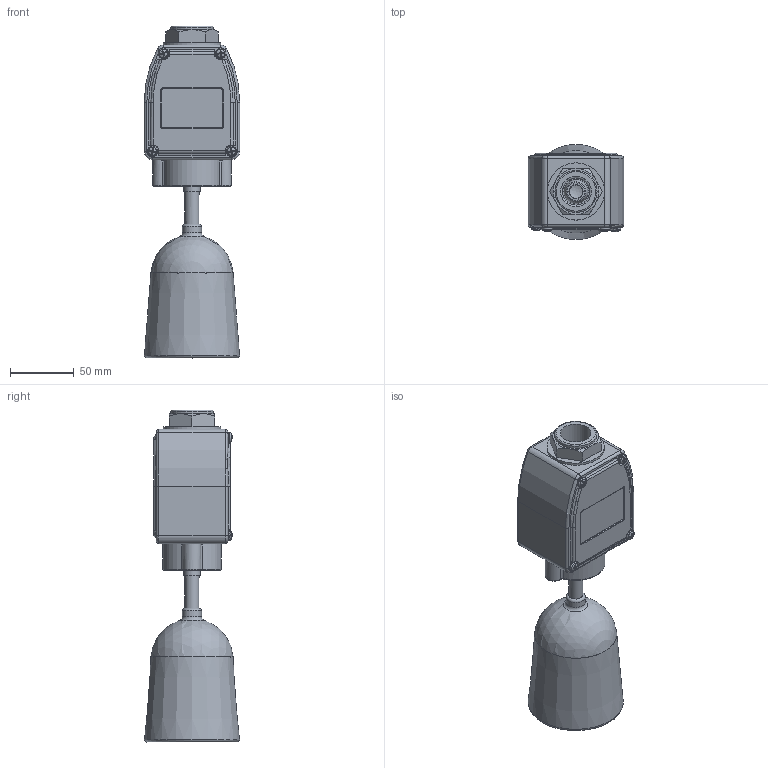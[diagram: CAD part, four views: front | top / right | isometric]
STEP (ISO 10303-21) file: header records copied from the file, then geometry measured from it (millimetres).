
FILE_DESCRIPTION(/* description */ (''),/* implementation_level */ '2;1');
FILE_NAME(/* name */ 'T:\TECNICO\Inventor\1_Gruppi\ILP3-Copia\1_Assiemi\ILP 3.stp',/* time_stamp */ '2022-03-16T12:10:52+01:00',/* author */ ('giovanni.perrone'),/* organization */ (''),/* preprocessor_version */ 'ST-DEVELOPER v18.1',/* originating_system */ 'Autodesk Inventor 2022',/* authorisation */ '');
FILE_SCHEMA (('AUTOMOTIVE_DESIGN { 1 0 10303 214 3 1 1 }'));
Length unit declared in the file: millimetre
Products named in the file (1): ILP 3_per step
Bounding box: 75 x 74.66 x 260.69 mm (x, y, z)
Volume: 252738.8 mm3; surface area: 128691.1 mm2
Topology: 1 solids, 16 shells, 1593 faces, 4103 edges, 2574 vertices
Faces by surface type: cylinder 641, plane 528, torus 235, cone 145, sphere 28, bspline 16
Full cylindrical faces by diameter (mm): 3.621 x9, 3.7 x7, 4 x8, 4.3 x8, 4.5 x6, 5 x2, 8.4 x1, 9 x3, 9.2 x1, 9.5 x1, 11 x5, 13 x1, 15 x2, 24.1 x1, 33 x1, 38 x1, 42 x1, 45 x1
Entity records: 51399 total; most frequent: CARTESIAN_POINT 11024, DIRECTION 8899, ORIENTED_EDGE 8172, EDGE_CURVE 4086, AXIS2_PLACEMENT_3D 3603, VERTEX_POINT 2574, CIRCLE 2019, LINE 1693
